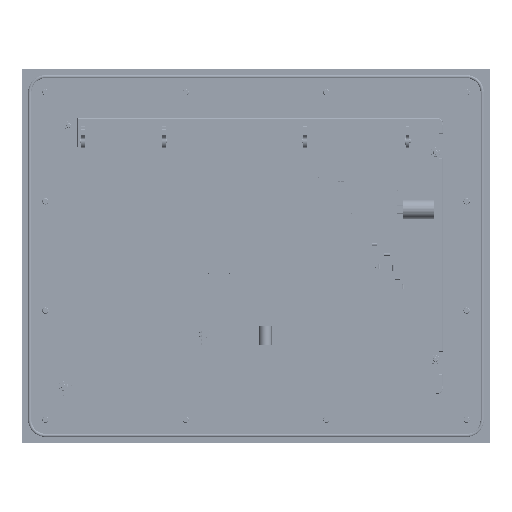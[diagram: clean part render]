
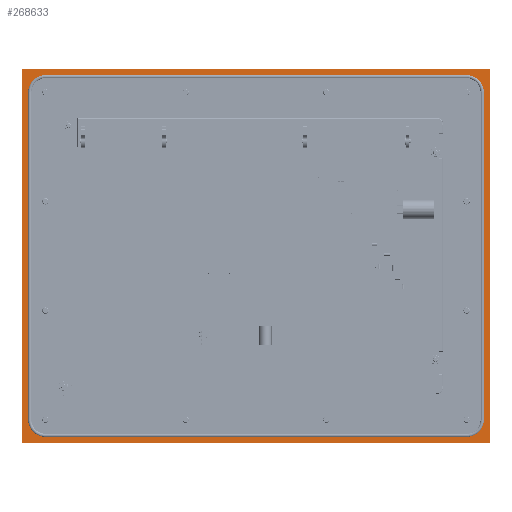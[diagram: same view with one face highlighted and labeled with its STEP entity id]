
A CAD part, top view. The second image highlights one B-rep face of the part: STEP entity #268633.
In plain terms, the highlighted planar face has unit normal (0, 0, 1).
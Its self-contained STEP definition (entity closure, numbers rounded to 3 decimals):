
#133547=PLANE('',#276352);
#139442=CIRCLE('',#276321,1.1);
#139451=CIRCLE('',#276335,1.1);
#139453=CIRCLE('',#276341,1.1);
#139455=CIRCLE('',#276347,1.1);
#142189=VERTEX_POINT('',#292634);
#142191=VERTEX_POINT('',#292638);
#142208=VERTEX_POINT('',#292678);
#142210=VERTEX_POINT('',#292686);
#142212=VERTEX_POINT('',#292694);
#142214=VERTEX_POINT('',#292702);
#142216=VERTEX_POINT('',#292710);
#142218=VERTEX_POINT('',#292718);
#142288=VERTEX_POINT('',#292890);
#142289=VERTEX_POINT('',#292891);
#142290=VERTEX_POINT('',#292893);
#142291=VERTEX_POINT('',#292895);
#155735=VECTOR('',#339609,1.);
#155741=VECTOR('',#339625,1.);
#155747=VECTOR('',#339641,1.);
#155752=VECTOR('',#339656,1.);
#155774=VECTOR('',#339812,1.);
#155775=VECTOR('',#339813,1.);
#155776=VECTOR('',#339814,1.);
#155777=VECTOR('',#339815,1.);
#172288=LINE('',#292679,#155735);
#172294=LINE('',#292695,#155741);
#172300=LINE('',#292711,#155747);
#172305=LINE('',#292725,#155752);
#172327=LINE('',#292889,#155774);
#172328=LINE('',#292892,#155775);
#172329=LINE('',#292894,#155776);
#172330=LINE('',#292896,#155777);
#188831=EDGE_CURVE('',#142189,#142191,#139442,.T.);
#188851=EDGE_CURVE('',#142208,#142189,#172288,.T.);
#188855=EDGE_CURVE('',#142210,#142208,#139451,.T.);
#188859=EDGE_CURVE('',#142212,#142210,#172294,.T.);
#188863=EDGE_CURVE('',#142214,#142212,#139453,.T.);
#188867=EDGE_CURVE('',#142216,#142214,#172300,.T.);
#188871=EDGE_CURVE('',#142218,#142216,#139455,.T.);
#188874=EDGE_CURVE('',#142191,#142218,#172305,.T.);
#188944=EDGE_CURVE('',#142288,#142289,#172327,.T.);
#188945=EDGE_CURVE('',#142290,#142288,#172328,.T.);
#188946=EDGE_CURVE('',#142291,#142290,#172329,.T.);
#188947=EDGE_CURVE('',#142289,#142291,#172330,.T.);
#209520=ORIENTED_EDGE('',*,*,#188831,.T.);
#209521=ORIENTED_EDGE('',*,*,#188874,.T.);
#209522=ORIENTED_EDGE('',*,*,#188871,.T.);
#209523=ORIENTED_EDGE('',*,*,#188867,.T.);
#209524=ORIENTED_EDGE('',*,*,#188863,.T.);
#209525=ORIENTED_EDGE('',*,*,#188859,.T.);
#209526=ORIENTED_EDGE('',*,*,#188855,.T.);
#209527=ORIENTED_EDGE('',*,*,#188851,.T.);
#209528=ORIENTED_EDGE('',*,*,#188944,.F.);
#209529=ORIENTED_EDGE('',*,*,#188945,.F.);
#209530=ORIENTED_EDGE('',*,*,#188946,.F.);
#209531=ORIENTED_EDGE('',*,*,#188947,.F.);
#250439=EDGE_LOOP('',(#209520,#209521,#209522,#209523,#209524,#209525,#209526,
#209527));
#250440=EDGE_LOOP('',(#209528,#209529,#209530,#209531));
#259551=FACE_BOUND('',#250439,.T.);
#259552=FACE_BOUND('',#250440,.T.);
#268633=ADVANCED_FACE('',(#259551,#259552),#133547,.T.);
#276321=AXIS2_PLACEMENT_3D('',#292639,#339576,#339577);
#276335=AXIS2_PLACEMENT_3D('',#292687,#339616,#339617);
#276341=AXIS2_PLACEMENT_3D('',#292703,#339632,#339633);
#276347=AXIS2_PLACEMENT_3D('',#292719,#339648,#339649);
#276352=AXIS2_PLACEMENT_3D('',#292728,#339659,$);
#292634=CARTESIAN_POINT('',(-14.6,10.5,0.6));
#292638=CARTESIAN_POINT('',(-13.5,11.6,0.6));
#292639=CARTESIAN_POINT('',(-13.5,10.5,0.6));
#292678=CARTESIAN_POINT('',(-14.6,-10.5,0.6));
#292679=CARTESIAN_POINT('',(-14.6,5.25,0.6));
#292686=CARTESIAN_POINT('',(-13.5,-11.6,0.6));
#292687=CARTESIAN_POINT('',(-13.5,-10.5,0.6));
#292694=CARTESIAN_POINT('',(13.5,-11.6,0.6));
#292695=CARTESIAN_POINT('',(-6.75,-11.6,0.6));
#292702=CARTESIAN_POINT('',(14.6,-10.5,0.6));
#292703=CARTESIAN_POINT('',(13.5,-10.5,0.6));
#292710=CARTESIAN_POINT('',(14.6,10.5,0.6));
#292711=CARTESIAN_POINT('',(14.6,-5.25,0.6));
#292718=CARTESIAN_POINT('',(13.5,11.6,0.6));
#292719=CARTESIAN_POINT('',(13.5,10.5,0.6));
#292725=CARTESIAN_POINT('',(6.75,11.6,0.6));
#292728=CARTESIAN_POINT('',(0.,0.,0.6));
#292889=CARTESIAN_POINT('',(15.,12.,0.6));
#292890=CARTESIAN_POINT('',(-15.,12.,0.6));
#292891=CARTESIAN_POINT('',(15.,12.,0.6));
#292892=CARTESIAN_POINT('',(-15.,12.,0.6));
#292893=CARTESIAN_POINT('',(-15.,-12.,0.6));
#292894=CARTESIAN_POINT('',(-15.,-12.,0.6));
#292895=CARTESIAN_POINT('',(15.,-12.,0.6));
#292896=CARTESIAN_POINT('',(15.,-12.,0.6));
#339576=DIRECTION('',(0.,0.,-1.));
#339577=DIRECTION('',(1.1,0.,0.));
#339609=DIRECTION('',(0.,1.,0.));
#339616=DIRECTION('',(0.,0.,-1.));
#339617=DIRECTION('',(1.1,0.,0.));
#339625=DIRECTION('',(-1.,0.,0.));
#339632=DIRECTION('',(0.,0.,-1.));
#339633=DIRECTION('',(1.1,0.,0.));
#339641=DIRECTION('',(0.,-1.,0.));
#339648=DIRECTION('',(0.,0.,-1.));
#339649=DIRECTION('',(1.1,0.,0.));
#339656=DIRECTION('',(1.,0.,0.));
#339659=DIRECTION('',(0.,0.,1.));
#339812=DIRECTION('',(1.,0.,0.));
#339813=DIRECTION('',(0.,1.,0.));
#339814=DIRECTION('',(-1.,0.,0.));
#339815=DIRECTION('',(0.,-1.,0.));
